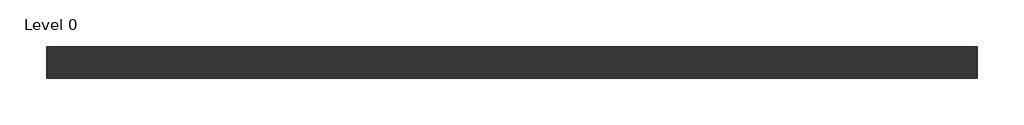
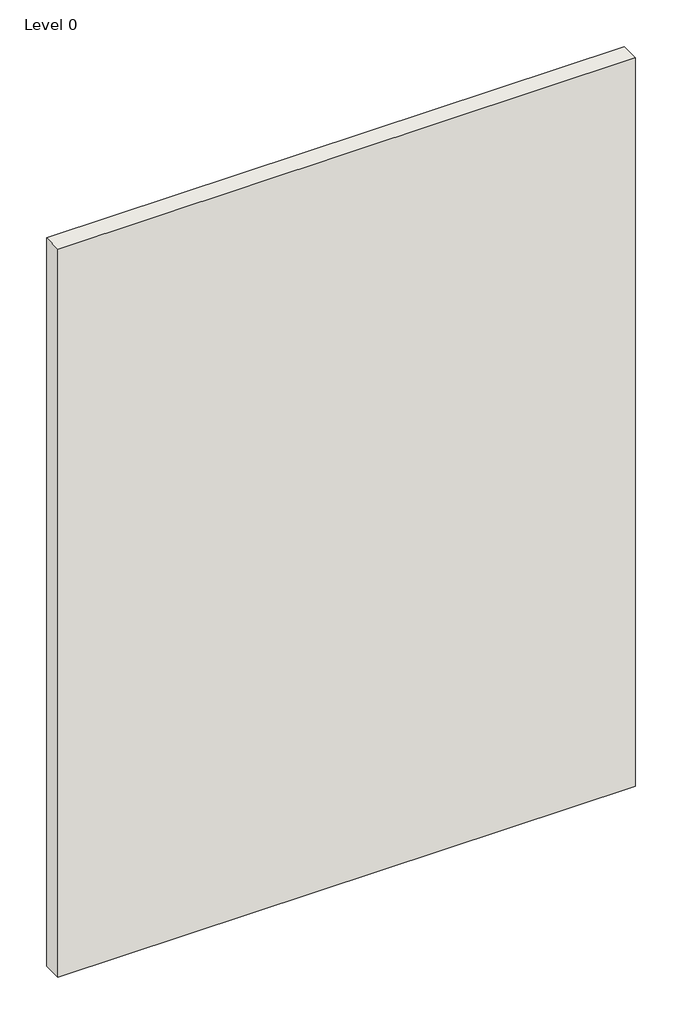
# One storey: 1 wall.
"""IFC4 building model written with IfcOpenShell, lengths in millimetres."""

from ifc_helpers import new_model, si_unit, origin, origin_with_axes, place, context, project, spatial, polyline, outline, extrude, element, save

model = new_model("IFC4")

# Units and contexts
model_context = context("Model", 3, world=origin())
ifc_project = project(units=[si_unit("LENGTHUNIT", "METRE", prefix="MILLI")], contexts=[model_context])

# Site, building, storey
site = spatial("IfcSite", under=ifc_project)
building = spatial("IfcBuilding", under=site)
storey = spatial("IfcBuildingStorey", under=building, Name="Level 0", Elevation=0.0)

# Wall
placement = place(None, origin())
element("IfcWall", 1, ObjectType="A206078 - GypWall CLASSIC", at=placement, inside=storey, context=model_context, shape_type="SweptSolid", body=[
    extrude(outline(polyline([(2116.0807354, 542.7205641), (-883.9192646, 542.7205641), (-883.9192646, 644.7205641), (2116.0807354, 644.7205641), (2116.0807354, 542.7205641)])), origin_with_axes(), (0.0, 0.0, 1.0), 4000.0),
])

save(model, "model.ifc")
